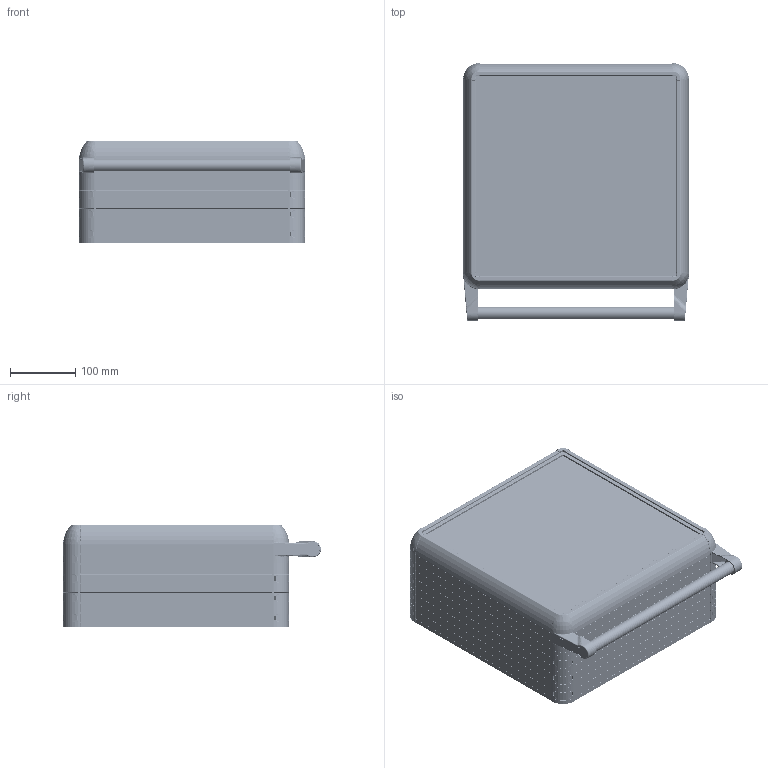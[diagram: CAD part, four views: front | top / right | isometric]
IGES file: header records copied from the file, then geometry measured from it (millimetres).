
Start section: SolidWorks IGES file using analytic representation for surfaces
Global section: file name: D:\PANO_STEP\150\150'lik data\1500-0105.IGS; native system: SolidWorks 2022; preprocessor: SolidWorks 2022; author: User; date: 220420.103202; units: millimetre
Bounding box: 347 x 395.81 x 158.05 mm (x, y, z)
Surface area: 1497599.2 mm2 (no closed solid volume)
Topology: 0 solids, 0 shells, 8540 faces, 68278 edges, 68094 vertices
Faces by surface type: bspline 5718, revolution 2822
